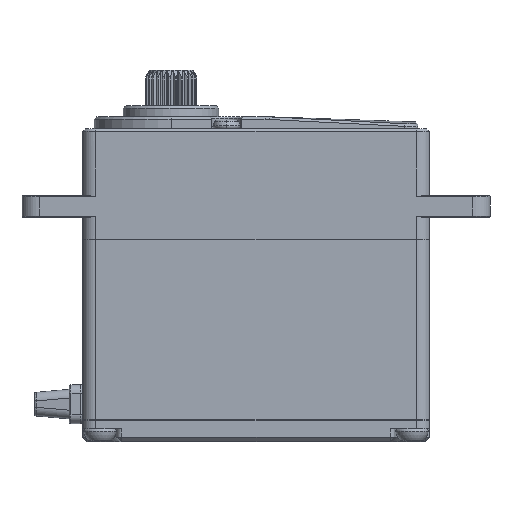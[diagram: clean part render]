
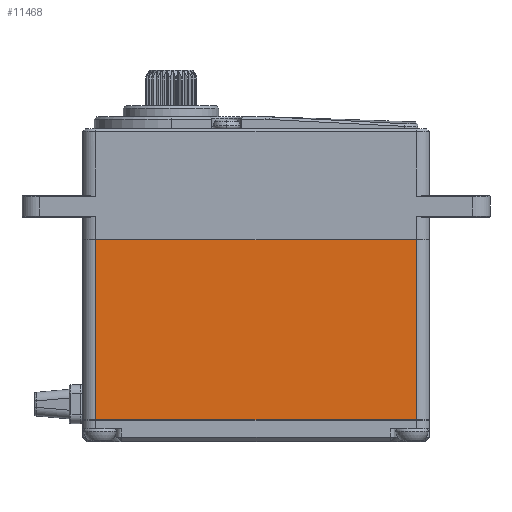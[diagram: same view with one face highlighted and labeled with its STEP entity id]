
A CAD part, top view. The second image highlights one B-rep face of the part: STEP entity #11468.
In plain terms, the highlighted planar face has unit normal (0, 0, 1).
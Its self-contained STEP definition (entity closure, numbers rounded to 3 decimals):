
#185=DIRECTION('',(1.,0.,0.));
#186=VECTOR('',#185,37.);
#187=CARTESIAN_POINT('',(-18.5,-20.79,10.));
#188=LINE('',#187,#186);
#189=DIRECTION('',(1.,0.,0.));
#190=VECTOR('',#189,37.);
#191=CARTESIAN_POINT('',(-18.5,-0.01,10.));
#192=LINE('',#191,#190);
#1553=DIRECTION('',(0.,1.,0.));
#1554=VECTOR('',#1553,20.78);
#1555=CARTESIAN_POINT('',(18.5,-20.79,10.));
#1556=LINE('',#1555,#1554);
#2259=DIRECTION('',(0.,-1.,0.));
#2260=VECTOR('',#2259,20.78);
#2261=CARTESIAN_POINT('',(-18.5,-0.01,10.));
#2262=LINE('',#2261,#2260);
#11124=CARTESIAN_POINT('',(-18.5,-0.01,10.));
#11125=CARTESIAN_POINT('',(18.5,-0.01,10.));
#11126=VERTEX_POINT('',#11124);
#11127=VERTEX_POINT('',#11125);
#11200=CARTESIAN_POINT('',(-18.5,-20.79,10.));
#11201=CARTESIAN_POINT('',(18.5,-20.79,10.));
#11202=VERTEX_POINT('',#11200);
#11203=VERTEX_POINT('',#11201);
#11453=CARTESIAN_POINT('',(-20.,0.,10.));
#11454=DIRECTION('',(0.,0.,1.));
#11455=DIRECTION('',(1.,0.,0.));
#11456=AXIS2_PLACEMENT_3D('',#11453,#11454,#11455);
#11457=PLANE('',#11456);
#11459=ORIENTED_EDGE('',*,*,#11458,.F.);
#11461=ORIENTED_EDGE('',*,*,#11460,.F.);
#11463=ORIENTED_EDGE('',*,*,#11462,.T.);
#11465=ORIENTED_EDGE('',*,*,#11464,.F.);
#11466=EDGE_LOOP('',(#11459,#11461,#11463,#11465));
#11467=FACE_OUTER_BOUND('',#11466,.F.);
#11458=EDGE_CURVE('',#11202,#11203,#188,.T.);
#11460=EDGE_CURVE('',#11126,#11202,#2262,.T.);
#11462=EDGE_CURVE('',#11126,#11127,#192,.T.);
#11464=EDGE_CURVE('',#11203,#11127,#1556,.T.);
#11468=ADVANCED_FACE('',(#11467),#11457,.T.);
